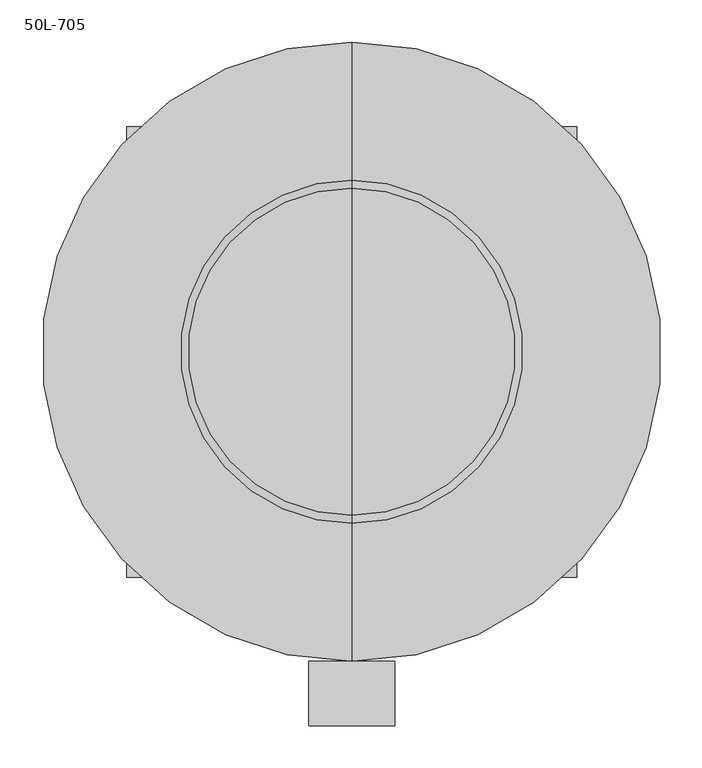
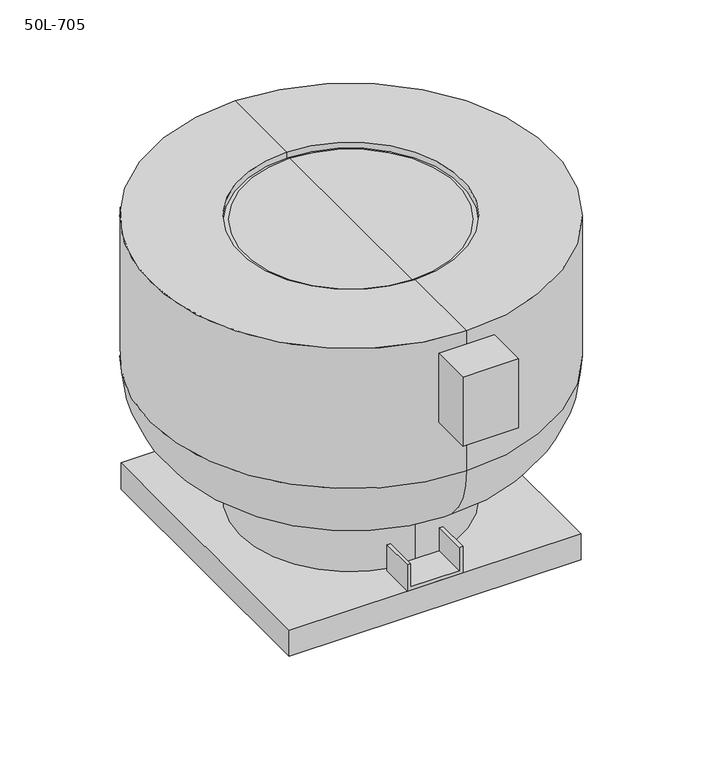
"""IFC4 building model written with IfcOpenShell, lengths in millimetres: proxy geometry, Fan-Exhaust-CaptiveAire-Centrifugal_Upblast-Direct_Drive : 50L-705."""

from ifc_helpers import new_model, si_unit, point, frame, origin, place, context, project, spatial, polyline, circle_curve, ellipse_curve, trimmed, outline, extrude, faceted_brep, source, transform, mapped, element, save
from ifc_brep_helpers import plane_surface, cylinder_surface, revolved_surface, advanced_brep


def proxy_50l_705_2dea56ad(model_context):
    return source(origin(), model_context, "Body", "SolidModel", [
        extrude(outline(polyline([(6.35, 50.8), (57.15, 50.8), (57.15, 44.45), (12.7, 44.45), (12.7, -44.45), (57.15, -44.45), (57.15, -50.8), (6.35, -50.8), (6.35, 50.8)])), frame((0.0, -368.3, 0.0), z_axis=(0.0, 1.0, 0.0), x_axis=(0.0, 0.0, 1.0)), (0.0, 0.0, 1.0), 63.5),
        extrude(outline(polyline([(50.8, -544.5125), (-50.8, -544.5125), (-50.8, -468.3125), (50.8, -468.3125), (50.8, -544.5125)])), frame((0.0, 0.0, 393.7), z_axis=(0.0, 0.0, 1.0), x_axis=(1.0, 0.0, 0.0)), (0.0, 0.0, 1.0), 133.35),
        faceted_brep([(266.7, 165.1, 6.35), (-266.7, 165.1, 6.35), (-266.7, -368.3, 6.35), (266.7, -368.3, 6.35), (266.7, 165.1, -44.45), (266.7, -368.3, -44.45), (-266.7, -368.3, -44.45), (-266.7, 165.1, -44.45), (260.35, -361.95, -44.45), (260.35, 158.75, -44.45), (-260.35, 158.75, -44.45), (-260.35, -361.95, -44.45), (260.35, 158.75, 0.0), (260.35, -361.95, 0.0), (-260.35, -361.95, 0.0), (-260.35, 158.75, 0.0)], [[[0, 1, 2, 3]], [[4, 5, 6, 7], [8, 9, 10, 11]], [[1, 0, 4, 7]], [[2, 1, 7, 6]], [[3, 2, 6, 5]], [[0, 3, 5, 4]], [[12, 13, 14, 15]], [[13, 12, 9, 8]], [[14, 13, 8, 11]], [[15, 14, 11, 10]], [[12, 15, 10, 9]]]),
        advanced_brep(
        [(0.0, -101.6, 6.35), (0.0, -304.8, 6.35), (0.0, 101.6, 6.35), (0.0, 92.075, 546.1), (0.0, -295.275, 546.1), (0.0, -101.6, 546.1), (0.0, 101.6, 552.45), (0.0, -304.8, 552.45), (0.0, -304.8, 536.575), (0.0, 101.6, 536.575), (0.0, 265.1125, 552.45), (0.0, -468.3125, 552.45), (0.0, 265.1125, 281.6225), (0.0, -468.3125, 281.6225), (0.0, 101.6, 124.46), (0.0, -304.8, 124.46), (0.0, -311.15, 124.46), (0.0, 107.95, 124.46)],
        [
            (0, 1),
            (1, 2, circle_curve(frame((0.0, -101.6, 6.35), z_axis=(0.0, 0.0, -1.0), x_axis=(0.0, -1.0, 0.0)), 203.2)),
            (2, 0),
            (2, 1, circle_curve(frame((0.0, -101.6, 6.35), z_axis=(0.0, 0.0, -1.0), x_axis=(0.0, -1.0, 0.0)), 203.2)),
            (3, 4, circle_curve(frame((0.0, -101.6, 546.1), z_axis=(0.0, 0.0, 1.0), x_axis=(0.0, -1.0, 0.0)), 193.675)),
            (4, 5),
            (5, 3),
            (4, 3, circle_curve(frame((0.0, -101.6, 546.1), z_axis=(0.0, 0.0, 1.0), x_axis=(0.0, -1.0, 0.0)), 193.675)),
            (6, 7, circle_curve(frame((0.0, -101.6, 552.45), z_axis=(0.0, 0.0, 1.0), x_axis=(0.0, -1.0, 0.0)), 203.2)),
            (7, 8),
            (8, 9, circle_curve(frame((0.0, -101.6, 536.575), z_axis=(0.0, 0.0, -1.0), x_axis=(0.0, -1.0, 0.0)), 203.2)),
            (9, 6),
            (7, 6, circle_curve(frame((0.0, -101.6, 552.45), z_axis=(0.0, 0.0, 1.0), x_axis=(0.0, -1.0, 0.0)), 203.2)),
            (9, 8, circle_curve(frame((0.0, -101.6, 536.575), z_axis=(0.0, 0.0, -1.0), x_axis=(0.0, -1.0, 0.0)), 203.2)),
            (10, 11, circle_curve(frame((0.0, -101.6, 552.45), z_axis=(0.0, 0.0, 1.0), x_axis=(0.0, -1.0, 0.0)), 366.7125)),
            (11, 7),
            (6, 10),
            (11, 10, circle_curve(frame((0.0, -101.6, 552.45), z_axis=(0.0, 0.0, 1.0), x_axis=(0.0, -1.0, 0.0)), 366.7125)),
            (12, 13, circle_curve(frame((0.0, -101.6, 281.6225), z_axis=(0.0, 0.0, 1.0), x_axis=(0.0, -1.0, 0.0)), 366.7125)),
            (13, 11),
            (10, 12),
            (13, 12, circle_curve(frame((0.0, -101.6, 281.6225), z_axis=(0.0, 0.0, 1.0), x_axis=(0.0, -1.0, 0.0)), 366.7125)),
            (14, 15, circle_curve(frame((0.0, -101.6, 124.46), z_axis=(0.0, 0.0, 1.0), x_axis=(0.0, -1.0, 0.0)), 203.2)),
            (15, 16),
            (16, 17, circle_curve(frame((0.0, -101.6, 124.46), z_axis=(0.0, 0.0, -1.0), x_axis=(0.0, -1.0, 0.0)), 209.55)),
            (17, 14),
            (15, 14, circle_curve(frame((0.0, -101.6, 124.46), z_axis=(0.0, 0.0, 1.0), x_axis=(0.0, -1.0, 0.0)), 203.2)),
            (17, 16, circle_curve(frame((0.0, -101.6, 124.46), z_axis=(0.0, 0.0, -1.0), x_axis=(0.0, -1.0, 0.0)), 209.55)),
            (1, 15),
            (14, 2),
            (8, 4, circle_curve(frame((0.0, -295.275, 536.575), z_axis=(-1.0, 0.0, 0.0), x_axis=(0.0, 1.0, 0.0)), 9.525)),
            (3, 9, circle_curve(frame((0.0, 92.075, 536.575), z_axis=(-1.0, 0.0, 0.0), x_axis=(0.0, -1.0, 0.0)), 9.525)),
            (16, 13, circle_curve(frame((0.0, -311.15, 281.6225), z_axis=(-1.0, 0.0, 0.0), x_axis=(0.0, 1.0, 0.0)), 157.1625)),
            (12, 17, circle_curve(frame((0.0, 107.95, 281.6225), z_axis=(-1.0, 0.0, 0.0), x_axis=(0.0, -1.0, 0.0)), 157.1625)),
        ],
        [
            plane_surface(frame((0.0, -101.6, 6.35), z_axis=(0.0, 0.0, -1.0), x_axis=(0.0, -1.0, 0.0))),
            plane_surface(frame((0.0, -101.6, 546.1), z_axis=(0.0, 0.0, 1.0), x_axis=(0.0, -1.0, 0.0))),
            revolved_surface(polyline([(0.0, -304.79999999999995, 536.575), (0.0, -304.79999999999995, 552.45)]), (0.0, -101.6, 6.35), (0.0, 0.0, -1.0)),
            plane_surface(frame((0.0, -101.6, 552.45), z_axis=(0.0, 0.0, 1.0), x_axis=(0.0, -1.0, 0.0))),
            cylinder_surface(frame((0.0, -101.6, 6.35), z_axis=(0.0, 0.0, -1.0), x_axis=(0.0, -1.0, 0.0)), 366.7125),
            plane_surface(frame((0.0, -101.6, 124.46), z_axis=(0.0, 0.0, -1.0), x_axis=(0.0, -1.0, 0.0))),
            cylinder_surface(frame((0.0, -101.6, 6.35), z_axis=(0.0, 0.0, -1.0), x_axis=(0.0, -1.0, 0.0)), 203.2),
            revolved_surface(trimmed(ellipse_curve(frame((0.0, -295.275, 536.575), z_axis=(1.0, 0.0, 0.0), x_axis=(0.0, 1.0, 0.0)), 9.525, 9.525), [point((0.0, -295.275, 546.1))], [point((0.0, -304.8, 536.575))], True, "CARTESIAN"), (0.0, -101.6, 6.35), (0.0, 0.0, -1.0)),
            revolved_surface(trimmed(ellipse_curve(frame((0.0, -311.15, 281.6225), z_axis=(1.0, 0.0, 0.0), x_axis=(0.0, 1.0, 0.0)), 157.1625, 157.1625), [point((0.0, -468.3125, 281.6225))], [point((0.0, -311.15, 124.46))], True, "CARTESIAN"), (0.0, -101.6, 6.35), (0.0, 0.0, -1.0)),
        ],
        [
            (0, [[1, 2, 3]]),
            (0, [[-3, 4, -1]]),
            (1, [[5, 6, 7]]),
            (1, [[8, -7, -6]]),
            (2, [[9, 10, 11, 12]]),
            (2, [[13, -12, 14, -10]]),
            (3, [[15, 16, -9, 17]]),
            (3, [[18, -17, -13, -16]]),
            (4, [[19, 20, -15, 21]]),
            (4, [[22, -21, -18, -20]]),
            (5, [[23, 24, 25, 26]]),
            (5, [[27, -26, 28, -24]]),
            (6, [[-2, 29, -23, 30]]),
            (6, [[-4, -30, -27, -29]]),
            (7, [[-11, 31, -5, 32]]),
            (7, [[-14, -32, -8, -31]]),
            (8, [[-25, 33, -19, 34]]),
            (8, [[-28, -34, -22, -33]]),
        ],
    ),
        extrude(outline(polyline([(203.2, 101.6), (203.2, -304.8), (-203.2, -304.8), (-203.2, 101.6), (203.2, 101.6)])), frame((0.0, 0.0, -50.8), z_axis=(0.0, 0.0, 1.0), x_axis=(1.0, 0.0, 0.0)), (0.0, 0.0, 1.0), 50.8),
    ])


if __name__ == "__main__":
    model = new_model("IFC4")
    model_context = context("Model", 3, world=origin())
    ifc_project = project(units=[si_unit("LENGTHUNIT", "METRE", prefix="MILLI")], contexts=[model_context])
    site = spatial("IfcSite", under=ifc_project)
    building = spatial("IfcBuilding", under=site)
    placement = place(None, origin())
    proxy_50l_705_shape = proxy_50l_705_2dea56ad(model_context)
    element("IfcBuildingElementProxy", 1, Name="Fan-Exhaust-CaptiveAire-Centrifugal_Upblast-Direct_Drive : 50L-705", ObjectType="Fan-Exhaust-CaptiveAire-Centrifugal_Upblast-Direct_Drive : 50L-705", at=placement, inside=building, context=model_context, shape_type="MappedRepresentation", body=[
        mapped(proxy_50l_705_shape, transform((0.0, 0.0, 0.0), x_axis=(1.0, 0.0, 0.0), y_axis=(0.0, 1.0, 0.0), z_axis=(0.0, 0.0, 1.0))),
    ])
    save(model, "model.ifc")
